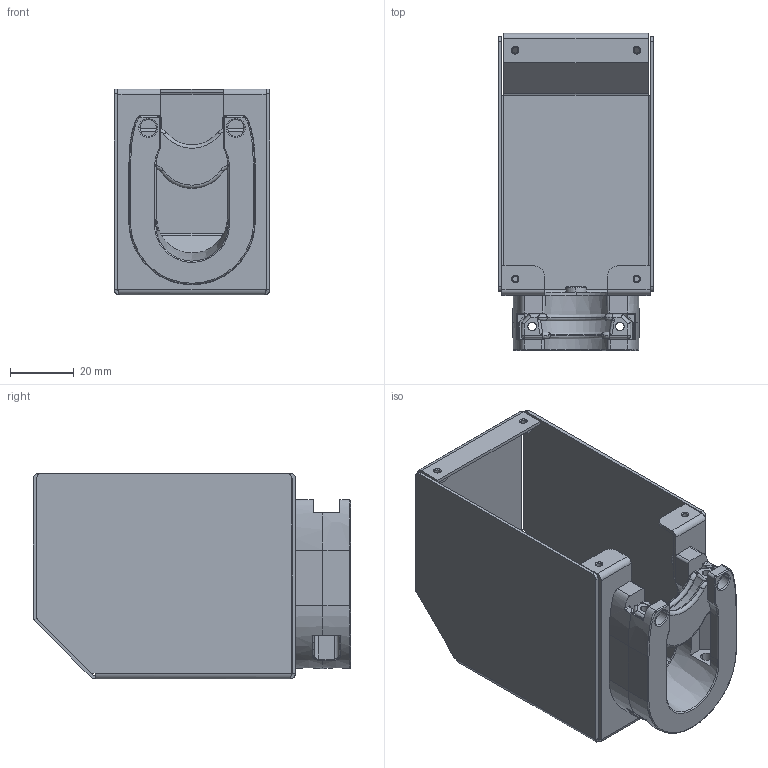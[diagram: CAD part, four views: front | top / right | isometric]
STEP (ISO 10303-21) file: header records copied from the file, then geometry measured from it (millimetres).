
FILE_DESCRIPTION (( 'STEP AP203' ), '1' );
FILE_NAME ('310113533.STEP', '2009-07-29T19:28:00', ( ' ' ), ( ' ' ), 'SwSTEP 2.0', 'SolidWorks 2009', '' );
FILE_SCHEMA (( 'CONFIG_CONTROL_DESIGN' ));
Length unit declared in the file: inch
Products named in the file (1): 310113533
Bounding box: 48.77 x 99.29 x 64.52 mm (x, y, z)
Volume: 33370.3 mm3; surface area: 46283 mm2
Topology: 2 solids, 3 shells, 435 faces, 1076 edges, 656 vertices
Faces by surface type: cylinder 152, plane 125, bspline 68, cone 54, torus 34, sphere 2
Entity records: 19687 total; most frequent: CARTESIAN_POINT 9701, ORIENTED_EDGE 2140, DIRECTION 1977, EDGE_CURVE 1070, AXIS2_PLACEMENT_3D 763, VERTEX_POINT 656, EDGE_LOOP 470, VECTOR 451
